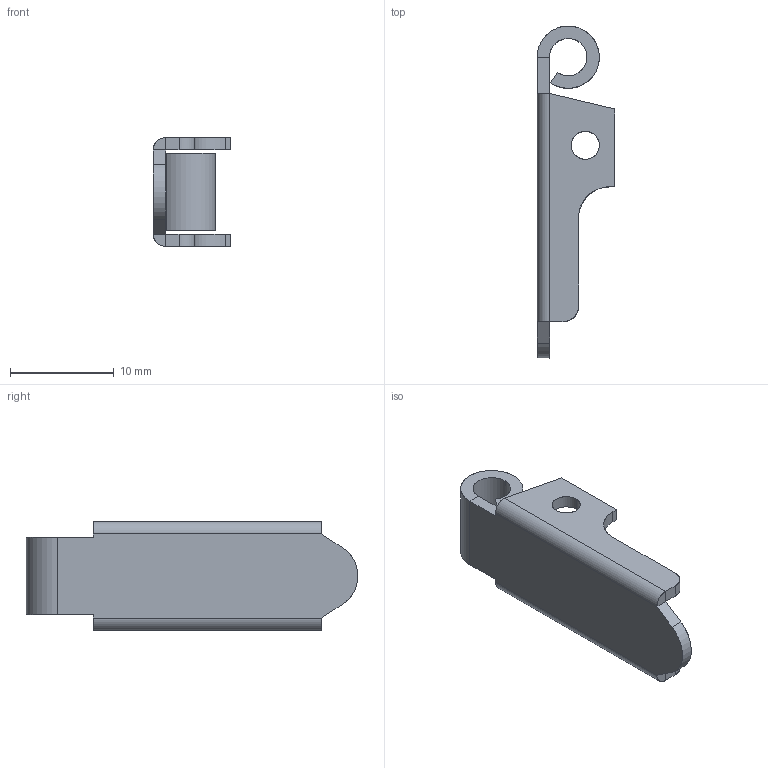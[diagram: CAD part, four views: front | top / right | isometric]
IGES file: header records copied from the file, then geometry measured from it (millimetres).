
Start section: SolidWorks IGES FILE using analytic representation for surfaces
Global section: file name: C:\WINNT\Profiles\cbrechard\Bureau\GE 574\533.010.00.IGS; native system: SolidWorks 2001Plus by SolidWorks Corporation; preprocessor: Version 5.3; author: CBRECHARD; date: 050125.145212; units: millimetre
Bounding box: 7.5 x 32 x 10.5 mm (x, y, z)
Surface area: 1220.5 mm2 (no closed solid volume)
Topology: 0 solids, 0 shells, 44 faces, 518 edges, 518 vertices
Faces by surface type: bspline 29, revolution 15
